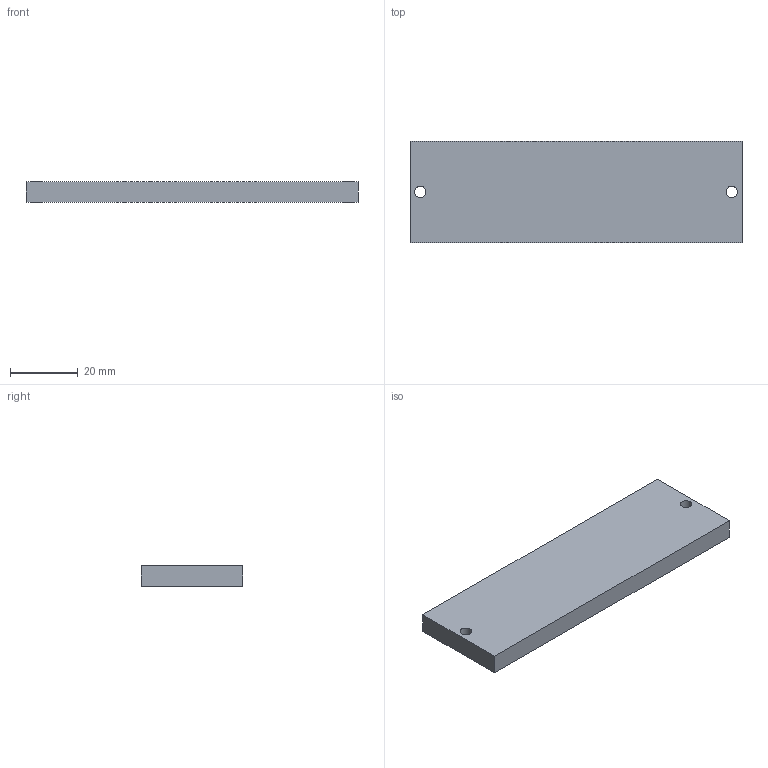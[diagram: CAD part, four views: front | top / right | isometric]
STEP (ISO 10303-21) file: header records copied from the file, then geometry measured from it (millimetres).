
FILE_DESCRIPTION(('Open CASCADE Model'),'2;1');
FILE_NAME('Open CASCADE Shape Model','2026-07-25T17:39:16',('Author'),( 'Open CASCADE'),'Open CASCADE STEP processor 7.9','build123d', 'Unknown');
FILE_SCHEMA(('AUTOMOTIVE_DESIGN { 1 0 10303 214 1 1 1 1 }'));
Length unit declared in the file: millimetre
Products named in the file (1): COMPOUND
Bounding box: 98 x 30 x 6 mm (x, y, z)
Volume: 17531.8 mm3; surface area: 7508.1 mm2
Topology: 1 solids, 1 shells, 8 faces, 18 edges, 12 vertices
Faces by surface type: plane 6, cylinder 2
Full cylindrical faces by diameter (mm): 3.4 x2
Entity records: 478 total; most frequent: DIRECTION 76, CARTESIAN_POINT 75, LINE 46, VECTOR 46, ORIENTED_EDGE 36, PCURVE 36, DEFINITIONAL_REPRESENTATION 36, EDGE_CURVE 18
